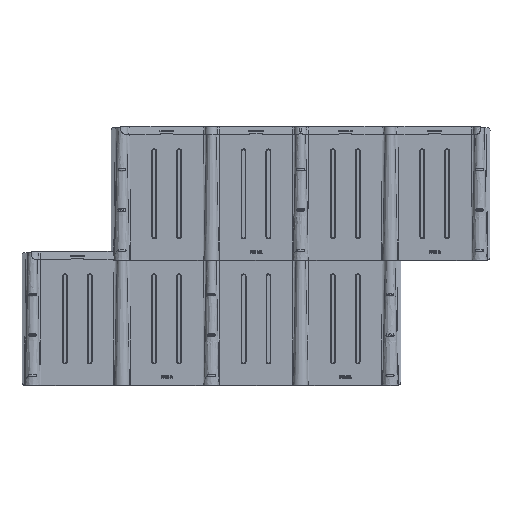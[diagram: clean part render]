
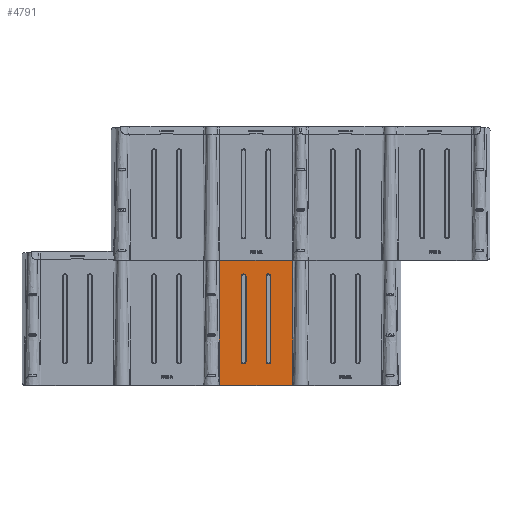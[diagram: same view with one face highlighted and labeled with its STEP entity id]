
A CAD part, top view. The second image highlights one B-rep face of the part: STEP entity #4791.
In plain terms, the highlighted free-form (B-spline) face has degree [1, 1] with [2, 2] control points.
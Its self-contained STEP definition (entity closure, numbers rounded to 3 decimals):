
#32=FACE_BOUND('',#7836,.T.);
#33=FACE_BOUND('',#7837,.T.);
#226=B_SPLINE_SURFACE_WITH_KNOTS('',1,1,((#61353,#61354),(#61355,#61356)),
 .UNSPECIFIED.,.F.,.F.,.F.,(2,2),(2,2),(-266.081,25.555),
(-44.82,491.82),.UNSPECIFIED.);
#4791=ADVANCED_FACE('',(#6303,#32,#33),#226,.T.);
#6303=FACE_OUTER_BOUND('',#7835,.T.);
#7835=EDGE_LOOP('',(#10959,#10960,#10961,#10962,#10963,#10964,#10965,#10966));
#7836=EDGE_LOOP('',(#10967,#10968,#10969,#10970));
#7837=EDGE_LOOP('',(#10971,#10972,#10973,#10974));
#10959=ORIENTED_EDGE('',*,*,#18076,.F.);
#10960=ORIENTED_EDGE('',*,*,#18077,.F.);
#10961=ORIENTED_EDGE('',*,*,#18078,.F.);
#10962=ORIENTED_EDGE('',*,*,#18085,.F.);
#10963=ORIENTED_EDGE('',*,*,#18079,.F.);
#10964=ORIENTED_EDGE('',*,*,#18080,.F.);
#10965=ORIENTED_EDGE('',*,*,#18081,.F.);
#10966=ORIENTED_EDGE('',*,*,#18086,.F.);
#10967=ORIENTED_EDGE('',*,*,#18071,.T.);
#10968=ORIENTED_EDGE('',*,*,#18072,.T.);
#10969=ORIENTED_EDGE('',*,*,#18082,.F.);
#10970=ORIENTED_EDGE('',*,*,#18084,.F.);
#10971=ORIENTED_EDGE('',*,*,#18075,.T.);
#10972=ORIENTED_EDGE('',*,*,#18073,.T.);
#10973=ORIENTED_EDGE('',*,*,#18074,.T.);
#10974=ORIENTED_EDGE('',*,*,#18083,.F.);
#18071=EDGE_CURVE('',#26551,#26550,#34984,.T.);
#18072=EDGE_CURVE('',#26550,#26552,#23678,.T.);
#18073=EDGE_CURVE('',#26554,#26553,#34985,.T.);
#18074=EDGE_CURVE('',#26553,#26555,#23679,.T.);
#18075=EDGE_CURVE('',#26556,#26554,#23680,.T.);
#18076=EDGE_CURVE('',#26559,#26557,#34986,.T.);
#18077=EDGE_CURVE('',#26560,#26559,#34987,.T.);
#18078=EDGE_CURVE('',#26561,#26560,#34988,.T.);
#18079=EDGE_CURVE('',#26563,#26562,#34989,.T.);
#18080=EDGE_CURVE('',#26564,#26563,#34990,.T.);
#18081=EDGE_CURVE('',#26558,#26564,#34991,.T.);
#18082=EDGE_CURVE('',#26565,#26552,#34992,.T.);
#18083=EDGE_CURVE('',#26556,#26555,#34993,.T.);
#18084=EDGE_CURVE('',#26551,#26565,#23681,.T.);
#18085=EDGE_CURVE('',#26562,#26561,#34994,.T.);
#18086=EDGE_CURVE('',#26557,#26558,#34995,.T.);
#23678=(
BOUNDED_CURVE()
B_SPLINE_CURVE(2,(#61375,#61376,#61377,#61378,#61379),.UNSPECIFIED.,.F.,
 .F.)
B_SPLINE_CURVE_WITH_KNOTS((3,2,3),(-25.133,-12.566,
0.),.UNSPECIFIED.)
CURVE()
GEOMETRIC_REPRESENTATION_ITEM()
RATIONAL_B_SPLINE_CURVE((1.,0.707,1.,0.707,1.))
REPRESENTATION_ITEM('')
);
#23679=(
BOUNDED_CURVE()
B_SPLINE_CURVE(2,(#61382,#61383,#61384,#61385,#61386),.UNSPECIFIED.,.F.,
 .F.)
B_SPLINE_CURVE_WITH_KNOTS((3,2,3),(-25.133,-12.566,
0.),.UNSPECIFIED.)
CURVE()
GEOMETRIC_REPRESENTATION_ITEM()
RATIONAL_B_SPLINE_CURVE((1.,0.707,1.,0.707,1.))
REPRESENTATION_ITEM('')
);
#23680=(
BOUNDED_CURVE()
B_SPLINE_CURVE(2,(#61387,#61388,#61389,#61390,#61391),.UNSPECIFIED.,.F.,
 .F.)
B_SPLINE_CURVE_WITH_KNOTS((3,2,3),(-25.133,-12.566,
0.),.UNSPECIFIED.)
CURVE()
GEOMETRIC_REPRESENTATION_ITEM()
RATIONAL_B_SPLINE_CURVE((1.,0.707,1.,0.707,1.))
REPRESENTATION_ITEM('')
);
#23681=(
BOUNDED_CURVE()
B_SPLINE_CURVE(2,(#61408,#61409,#61410,#61411,#61412),.UNSPECIFIED.,.F.,
 .F.)
B_SPLINE_CURVE_WITH_KNOTS((3,2,3),(0.,12.566,25.133),
 .UNSPECIFIED.)
CURVE()
GEOMETRIC_REPRESENTATION_ITEM()
RATIONAL_B_SPLINE_CURVE((1.,0.707,1.,0.707,1.))
REPRESENTATION_ITEM('')
);
#26550=VERTEX_POINT('',#61357);
#26551=VERTEX_POINT('',#61358);
#26552=VERTEX_POINT('',#61359);
#26553=VERTEX_POINT('',#61360);
#26554=VERTEX_POINT('',#61361);
#26555=VERTEX_POINT('',#61362);
#26556=VERTEX_POINT('',#61363);
#26557=VERTEX_POINT('',#61364);
#26558=VERTEX_POINT('',#61365);
#26559=VERTEX_POINT('',#61366);
#26560=VERTEX_POINT('',#61367);
#26561=VERTEX_POINT('',#61368);
#26562=VERTEX_POINT('',#61369);
#26563=VERTEX_POINT('',#61370);
#26564=VERTEX_POINT('',#61371);
#26565=VERTEX_POINT('',#61372);
#34984=B_SPLINE_CURVE_WITH_KNOTS('',1,(#61373,#61374),.UNSPECIFIED.,.F.,
 .F.,(2,2),(-286.,0.),.UNSPECIFIED.);
#34985=B_SPLINE_CURVE_WITH_KNOTS('',1,(#61380,#61381),.UNSPECIFIED.,.F.,
 .F.,(2,2),(-286.,0.),.UNSPECIFIED.);
#34986=B_SPLINE_CURVE_WITH_KNOTS('',1,(#61392,#61393),.UNSPECIFIED.,.F.,
 .F.,(2,2),(0.,0.),.UNSPECIFIED.);
#34987=B_SPLINE_CURVE_WITH_KNOTS('',1,(#61394,#61395),.UNSPECIFIED.,.F.,
 .F.,(2,2),(0.,240.526),.UNSPECIFIED.);
#34988=B_SPLINE_CURVE_WITH_KNOTS('',1,(#61396,#61397),.UNSPECIFIED.,.F.,
 .F.,(2,2),(0.,0.),.UNSPECIFIED.);
#34989=B_SPLINE_CURVE_WITH_KNOTS('',1,(#61398,#61399),.UNSPECIFIED.,.F.,
 .F.,(2,2),(-2.,0.),.UNSPECIFIED.);
#34990=B_SPLINE_CURVE_WITH_KNOTS('',1,(#61400,#61401),.UNSPECIFIED.,.F.,
 .F.,(2,2),(0.,242.83),.UNSPECIFIED.);
#34991=B_SPLINE_CURVE_WITH_KNOTS('',1,(#61402,#61403),.UNSPECIFIED.,.F.,
 .F.,(2,2),(0.,2.),.UNSPECIFIED.);
#34992=B_SPLINE_CURVE_WITH_KNOTS('',1,(#61404,#61405),.UNSPECIFIED.,.F.,
 .F.,(2,2),(0.,286.),.UNSPECIFIED.);
#34993=B_SPLINE_CURVE_WITH_KNOTS('',1,(#61406,#61407),.UNSPECIFIED.,.F.,
 .F.,(2,2),(0.,286.),.UNSPECIFIED.);
#34994=B_SPLINE_CURVE_WITH_KNOTS('',3,(#61413,#61414,#61415,#61416),
 .UNSPECIFIED.,.F.,.F.,(4,4),(-445.147,0.),
 .UNSPECIFIED.);
#34995=B_SPLINE_CURVE_WITH_KNOTS('',3,(#61417,#61418,#61419,#61420),
 .UNSPECIFIED.,.F.,.F.,(4,4),(0.,445.147),
 .UNSPECIFIED.);
#61353=CARTESIAN_POINT('',(-109.666,-389.95,8.776));
#61354=CARTESIAN_POINT('',(-109.666,146.69,8.776));
#61355=CARTESIAN_POINT('',(186.989,-389.95,8.776));
#61356=CARTESIAN_POINT('',(186.989,146.69,8.776));
#61357=CARTESIAN_POINT('',(-11.029,20.37,8.776));
#61358=CARTESIAN_POINT('',(-11.029,-265.63,8.776));
#61359=CARTESIAN_POINT('',(5.246,20.37,8.776));
#61360=CARTESIAN_POINT('',(72.382,20.37,8.776));
#61361=CARTESIAN_POINT('',(72.382,-265.63,8.776));
#61362=CARTESIAN_POINT('',(88.657,20.37,8.776));
#61363=CARTESIAN_POINT('',(88.657,-265.63,8.776));
#61364=CARTESIAN_POINT('',(-83.672,-345.13,8.776));
#61365=CARTESIAN_POINT('',(-84.843,99.87,8.776));
#61366=CARTESIAN_POINT('',(-83.672,-345.13,8.776));
#61367=CARTESIAN_POINT('',(160.995,-345.13,8.776));
#61368=CARTESIAN_POINT('',(160.995,-345.13,8.776));
#61369=CARTESIAN_POINT('',(162.166,99.87,8.776));
#61370=CARTESIAN_POINT('',(162.166,101.87,8.776));
#61371=CARTESIAN_POINT('',(-84.843,101.87,8.776));
#61372=CARTESIAN_POINT('',(5.246,-265.63,8.776));
#61373=CARTESIAN_POINT('',(-11.029,-265.63,8.776));
#61374=CARTESIAN_POINT('',(-11.029,20.37,8.776));
#61375=CARTESIAN_POINT('',(-11.029,20.37,8.776));
#61376=CARTESIAN_POINT('',(-11.029,28.37,8.776));
#61377=CARTESIAN_POINT('',(-2.892,28.37,8.776));
#61378=CARTESIAN_POINT('',(5.246,28.37,8.776));
#61379=CARTESIAN_POINT('',(5.246,20.37,8.776));
#61380=CARTESIAN_POINT('',(72.382,-265.63,8.776));
#61381=CARTESIAN_POINT('',(72.382,20.37,8.776));
#61382=CARTESIAN_POINT('',(72.382,20.37,8.776));
#61383=CARTESIAN_POINT('',(72.382,28.37,8.776));
#61384=CARTESIAN_POINT('',(80.52,28.37,8.776));
#61385=CARTESIAN_POINT('',(88.657,28.37,8.776));
#61386=CARTESIAN_POINT('',(88.657,20.37,8.776));
#61387=CARTESIAN_POINT('',(88.657,-265.63,8.776));
#61388=CARTESIAN_POINT('',(88.657,-273.63,8.776));
#61389=CARTESIAN_POINT('',(80.52,-273.63,8.776));
#61390=CARTESIAN_POINT('',(72.382,-273.63,8.776));
#61391=CARTESIAN_POINT('',(72.382,-265.63,8.776));
#61392=CARTESIAN_POINT('',(-83.672,-345.13,8.776));
#61393=CARTESIAN_POINT('',(-83.672,-345.13,8.776));
#61394=CARTESIAN_POINT('',(160.995,-345.13,8.776));
#61395=CARTESIAN_POINT('',(-83.672,-345.13,8.776));
#61396=CARTESIAN_POINT('',(160.995,-345.13,8.776));
#61397=CARTESIAN_POINT('',(160.995,-345.13,8.776));
#61398=CARTESIAN_POINT('',(162.166,101.87,8.776));
#61399=CARTESIAN_POINT('',(162.166,99.87,8.776));
#61400=CARTESIAN_POINT('',(-84.843,101.87,8.776));
#61401=CARTESIAN_POINT('',(162.166,101.87,8.776));
#61402=CARTESIAN_POINT('',(-84.843,99.87,8.776));
#61403=CARTESIAN_POINT('',(-84.843,101.87,8.776));
#61404=CARTESIAN_POINT('',(5.246,-265.63,8.776));
#61405=CARTESIAN_POINT('',(5.246,20.37,8.776));
#61406=CARTESIAN_POINT('',(88.657,-265.63,8.776));
#61407=CARTESIAN_POINT('',(88.657,20.37,8.776));
#61408=CARTESIAN_POINT('',(-11.029,-265.63,8.776));
#61409=CARTESIAN_POINT('',(-11.029,-273.63,8.776));
#61410=CARTESIAN_POINT('',(-2.892,-273.63,8.776));
#61411=CARTESIAN_POINT('',(5.246,-273.63,8.776));
#61412=CARTESIAN_POINT('',(5.246,-265.63,8.776));
#61413=CARTESIAN_POINT('',(162.166,99.87,8.776));
#61414=CARTESIAN_POINT('',(161.776,-48.463,8.776));
#61415=CARTESIAN_POINT('',(161.385,-196.797,8.776));
#61416=CARTESIAN_POINT('',(160.995,-345.13,8.776));
#61417=CARTESIAN_POINT('',(-83.672,-345.13,8.776));
#61418=CARTESIAN_POINT('',(-84.062,-196.797,8.776));
#61419=CARTESIAN_POINT('',(-84.453,-48.463,8.776));
#61420=CARTESIAN_POINT('',(-84.843,99.87,8.776));
